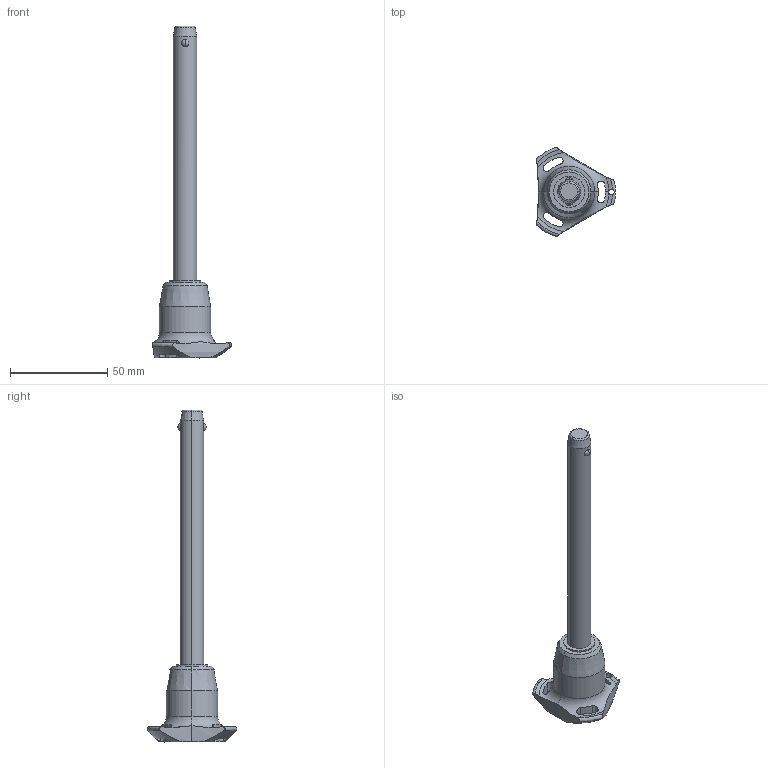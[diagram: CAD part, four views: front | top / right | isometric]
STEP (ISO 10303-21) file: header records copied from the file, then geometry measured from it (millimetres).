
FILE_DESCRIPTION (( 'STEP AP203' ), '1' );
FILE_NAME ('QR1714.M12-120-S.step', '2025-11-12T10:18:32', ( '' ), ( '' ), 'SwSTEP 2.0', 'SolidWorks 2019', '' );
FILE_SCHEMA (( 'CONFIG_CONTROL_DESIGN' ));
Length unit declared in the file: millimetre
Products named in the file (1): QR1714.M12-120-S
Bounding box: 40.5 x 45.88 x 170.3 mm (x, y, z)
Volume: 36706.8 mm3; surface area: 10861.5 mm2
Topology: 1 solids, 1 shells, 65 faces, 178 edges, 113 vertices
Faces by surface type: cylinder 30, cone 14, torus 11, sphere 6, plane 4
Entity records: 2862 total; most frequent: CARTESIAN_POINT 1173, ORIENTED_EDGE 356, DIRECTION 329, EDGE_CURVE 178, AXIS2_PLACEMENT_3D 147, VERTEX_POINT 113, CIRCLE 81, EDGE_LOOP 71
